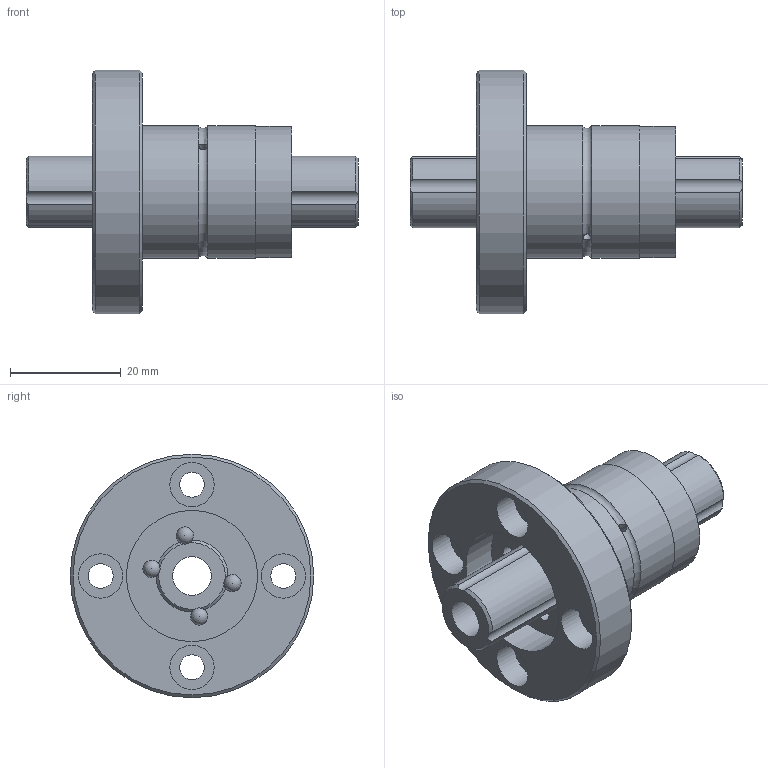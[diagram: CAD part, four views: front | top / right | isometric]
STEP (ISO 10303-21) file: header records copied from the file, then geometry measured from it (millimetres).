
FILE_DESCRIPTION(/* description */ ('Unknown'),/* implementation_level */ '2;1');
FILE_NAME(/* name */ 'TLF013-D1-L60',/* time_stamp */ '2024-12-16T13:51:13+08:00',/* author */ ('Unknown'),/* organization */ ('Unknown'),/* preprocessor_version */ 'ST-DEVELOPER v18.102',/* originating_system */ 'Solid Edge',/* authorisation */ 'Unknown');
FILE_SCHEMA (('AUTOMOTIVE_DESIGN {1 0 10303 214 3 1 1}'));
Length unit declared in the file: millimetre
Products named in the file (3): TLF013-D1-L60; TLF013-D1-xxxx; TLF013
Assembly tree (2 placements, depth 2):
  TLF013-D1-L60
    TLF013-D1-xxxx
    TLF013
Bounding box: 60 x 44 x 44 mm (x, y, z)
Volume: 22692.1 mm3; surface area: 13409.1 mm2
Topology: 2 solids, 2 shells, 74 faces, 243 edges, 164 vertices
Faces by surface type: cylinder 32, sphere 20, plane 11, cone 10, torus 1
Full cylindrical faces by diameter (mm): 1.5 x2, 4.5 x4, 7 x1, 8 x4, 23.7 x2, 24 x2, 44 x1
Entity records: 2999 total; most frequent: CARTESIAN_POINT 1233, DIRECTION 342, ORIENTED_EDGE 284, EDGE_LOOP 168, FACE_BOUND 168, AXIS2_PLACEMENT_3D 163, EDGE_CURVE 142, VERTEX_POINT 118
